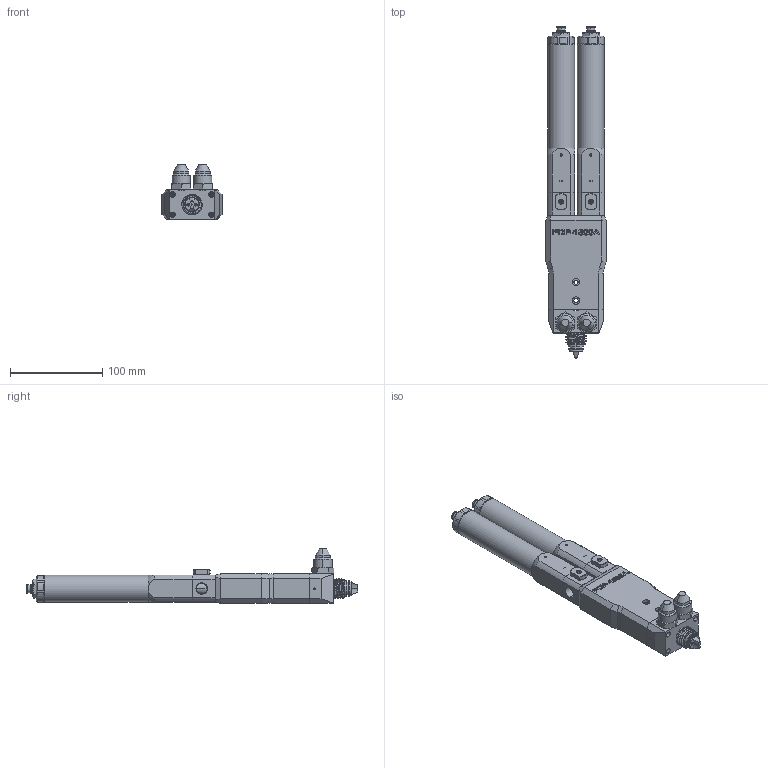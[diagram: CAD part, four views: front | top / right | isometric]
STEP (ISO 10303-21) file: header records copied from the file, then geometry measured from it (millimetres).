
FILE_DESCRIPTION (( 'STEP AP214' ), '1' );
FILE_NAME ('PDP-1500-1000CA.STEP', '2024-10-11T12:30:38', ( '' ), ( '' ), 'SwSTEP 2.0', 'SolidWorks 2024', '' );
FILE_SCHEMA (( 'AUTOMOTIVE_DESIGN' ));
Length unit declared in the file: millimetre
Products named in the file (1): PDP-1500-1000CA
Bounding box: 65 x 359 x 59.3 mm (x, y, z)
Volume: 526278.2 mm3; surface area: 127224.7 mm2
Topology: 12 solids, 12 shells, 1561 faces, 3961 edges, 2523 vertices
Faces by surface type: plane 757, cylinder 451, cone 311, bspline 22, torus 12, sphere 8
Full cylindrical faces by diameter (mm): 29 x2
Entity records: 58370 total; most frequent: CARTESIAN_POINT 20845, ORIENTED_EDGE 7862, DIRECTION 7700, EDGE_CURVE 3931, AXIS2_PLACEMENT_3D 2755, VERTEX_POINT 2523, LINE 2190, VECTOR 2190
